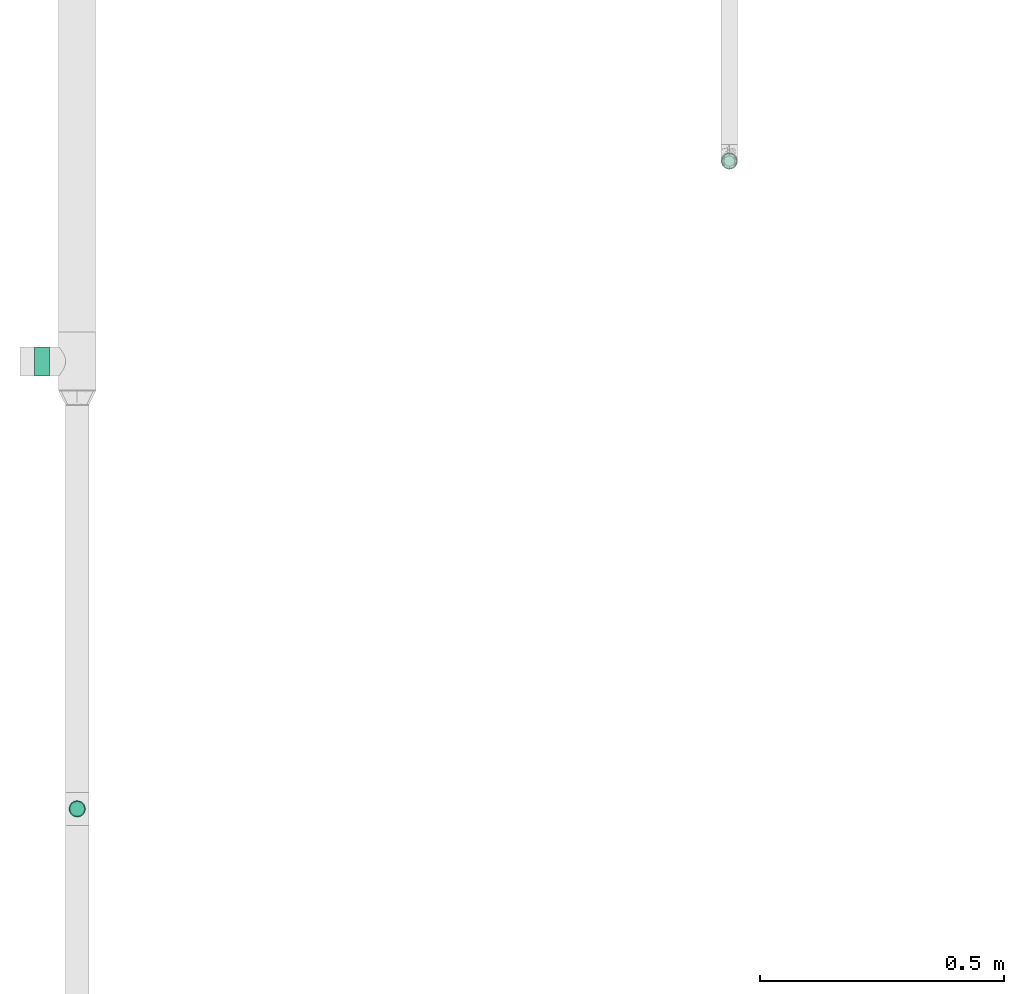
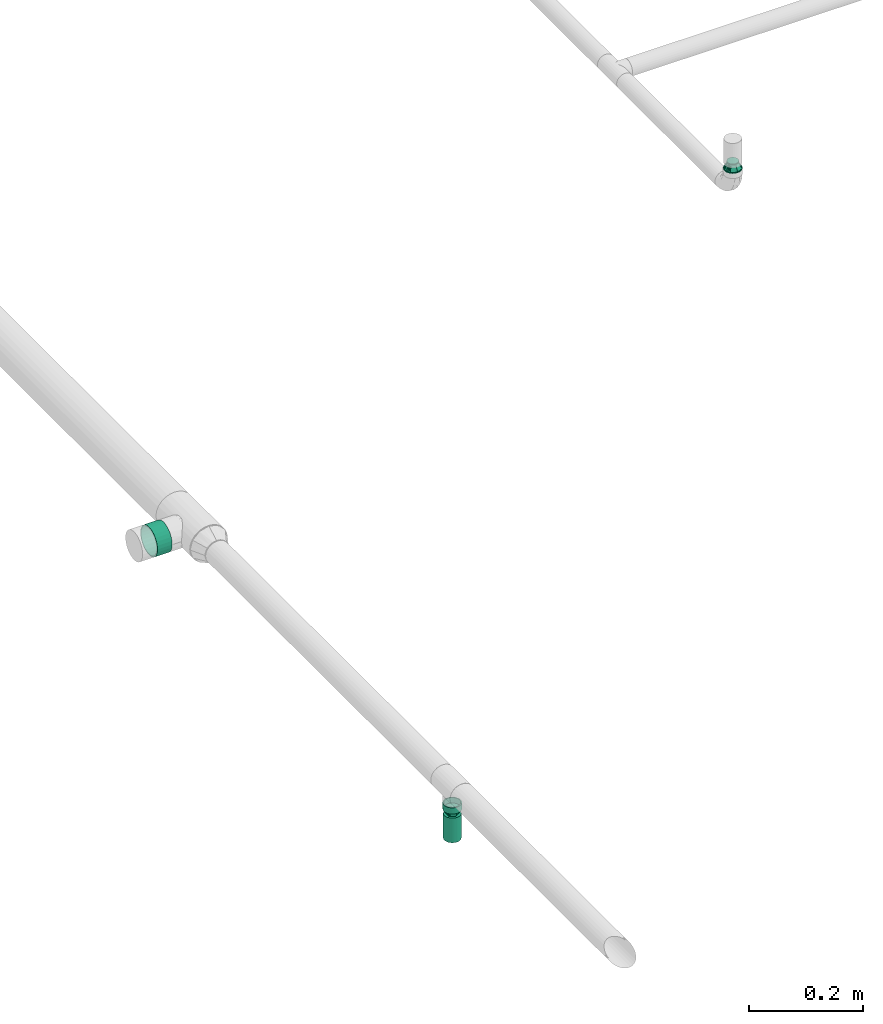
# One storey, part 5 of 32: 2 flow fittings, 2 flow segments, 1 flow terminal.
"""IFC2X3 building model written with IfcOpenShell, lengths in millimetres."""

from ifc_helpers import new_model, entity, si_unit, converted_unit, derived_unit, direction, frame, origin_with_axes, origin_2d_with_axis, place, context, subcontext, project, spatial, hollow_circle, extrude, open_shell, surface_model, source, transform, mapped, type_object, element, save


model = new_model("IFC2X3")

# Units and contexts
model_context = context("Model", 3, precision=0.01, world=frame((0.0, 4.29681676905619e-09, 0.0)), true_north=direction((4.01073788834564e-13, 1.0)))
plan_context = context("Plan", 3, precision=0.01, world=frame((0.0, 4.29681676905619e-09, 0.0)), true_north=direction((4.01073788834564e-13, 1.0)))
body_context = subcontext(model_context, "Body", "Model", "MODEL_VIEW")
ifc_project = project(units=[converted_unit("PLANEANGLEUNIT", "DEGREE", entity("IfcPositiveLengthMeasure", 0.0174532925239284), si_unit("PLANEANGLEUNIT", "RADIAN"), dimensions=[0, 0, 0, 0, 0, 0, 0]), si_unit("AREAUNIT", "SQUARE_METRE"), si_unit("LENGTHUNIT", "METRE", prefix="MILLI"), si_unit("MASSUNIT", "GRAM", prefix="KILO"), si_unit("POWERUNIT", "WATT"), si_unit("PRESSUREUNIT", "PASCAL", prefix="KILO"), si_unit("FORCEUNIT", "NEWTON", prefix="KILO"), si_unit("ELECTRICVOLTAGEUNIT", "VOLT"), si_unit("ELECTRICCURRENTUNIT", "AMPERE"), si_unit("THERMODYNAMICTEMPERATUREUNIT", "DEGREE_CELSIUS"), si_unit("TIMEUNIT", "SECOND"), si_unit("VOLUMEUNIT", "CUBIC_METRE"), derived_unit("LINEARVELOCITYUNIT", [(si_unit("LENGTHUNIT", "METRE"), 1), (si_unit("TIMEUNIT", "SECOND"), -1)]), derived_unit("VOLUMETRICFLOWRATEUNIT", [(si_unit("VOLUMEUNIT", "CUBIC_METRE"), 1), (si_unit("TIMEUNIT", "SECOND"), -1)]), derived_unit("THERMALTRANSMITTANCEUNIT", [(si_unit("POWERUNIT", "WATT"), 1), (si_unit("THERMODYNAMICTEMPERATUREUNIT", "KELVIN"), -1), (si_unit("AREAUNIT", "SQUARE_METRE"), -1)]), derived_unit("SOUNDPRESSUREUNIT", [(si_unit("PRESSUREUNIT", "PASCAL"), 1)])], contexts=[model_context, plan_context])

# Site, building, storey
site_placement = place(None, frame((0.0, -4.29681676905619e-09, 0.0), z_axis=(0.0, 0.0, 1.0), x_axis=(1.0, 0.0, 0.0)))
site = spatial("IfcSite", under=ifc_project, at=site_placement, CompositionType="ELEMENT")
building_placement = place(site_placement, frame((0.0, 4.29681676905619e-09, 0.0), z_axis=(0.0, 0.0, 1.0), x_axis=(1.0, 0.0, 0.0)))
building = spatial("IfcBuilding", under=site, at=building_placement, Name="mc-building", CompositionType="ELEMENT")
storey_placement = place(building_placement, frame((0.0, 0.0, 205200.0), z_axis=(0.0, 0.0, 1.0), x_axis=(1.0, 0.0, 0.0)))
storey = spatial("IfcBuildingStorey", under=building, at=storey_placement, Name="Nivå D + 1,2 m", CompositionType="ELEMENT", Elevation=205200.0)

# Flow fittings
pipe_fitting_type = type_object("IfcPipeFittingType", Name="magi_pipe_fe_reducer_centric_short_001", PredefinedType="TRANSITION")
shared_shape_1 = source(origin_with_axes(), body_context, "Body", "SurfaceModel", [
    surface_model("IfcShellBasedSurfaceModel", [(-2.0, 11.9501, 11.9501), (-2.0, 0.0, 16.9), (-2.0, 4.37404, 16.32415), (-2.0, 8.45, 14.63583), (-2.0, 14.63583, 8.45), (-2.0, 16.32415, 4.37404), (-2.0, -16.32415, 4.37404), (-2.0, -8.45, 14.63583), (-2.0, -14.63583, 8.45), (-2.0, -11.9501, 11.9501), (-2.0, -4.37404, 16.32415), (-2.0, -16.32415, -4.37404), (-2.0, -16.9, 0.0), (-2.0, -8.45, -14.63583), (-2.0, 16.32415, -4.37404), (-2.0, 11.9501, -11.9501), (-2.0, 14.63583, -8.45), (-2.0, 8.45, -14.63583), (-2.0, 4.37404, -16.32415), (-2.0, 0.0, -16.9), (-2.0, -11.9501, -11.9501), (-2.0, -14.63583, -8.45), (-2.0, -4.37404, -16.32415), (-2.0, 16.9, 0.0), (0.0, 4.37404, -16.32415), (0.0, 8.45, -14.63583), (0.0, 11.9501, -11.9501), (0.0, 0.0, -16.9), (0.0, 16.32415, -4.37404), (0.0, 16.32415, 4.37404), (0.0, 14.63583, -8.45), (0.0, -8.45, -14.63583), (0.0, -4.37404, -16.32415), (0.0, -11.9501, -11.9501), (0.0, -16.32415, -4.37404), (0.0, -14.63583, -8.45), (0.0, -16.32415, 4.37404), (0.0, 16.9, 0.0), (0.0, 14.63583, 8.45), (0.0, 11.9501, 11.9501), (0.0, 4.37404, 16.32415), (0.0, 8.45, 14.63583), (0.0, 0.0, 16.9), (0.0, -14.63583, 8.45), (0.0, -16.9, 0.0), (0.0, -8.45, 14.63583), (0.0, -11.9501, 11.9501), (0.0, -4.37404, 16.32415), (14.4, 5.35, -9.26647), (14.4, 0.0, -10.7), (14.4, 2.76936, -10.33541), (14.4, 10.33541, -2.76936), (14.4, 7.56604, -7.56604), (14.4, -5.35, -9.26647), (14.4, 9.26647, -5.35), (14.4, -9.26647, 5.35), (14.4, -2.76936, -10.33541), (14.4, -7.56604, -7.56604), (14.4, -10.33541, -2.76936), (14.4, -9.26647, -5.35), (14.4, 10.33541, 2.76936), (14.4, 10.7, 0.0), (14.4, 9.26647, 5.35), (14.4, 7.56604, 7.56604), (14.4, 2.76936, 10.33541), (14.4, 0.0, 10.7), (14.4, 5.35, 9.26647), (14.4, -10.33541, 2.76936), (14.4, -10.7, 0.0), (14.4, -7.56604, 7.56604), (14.4, -2.76936, 10.33541), (14.4, -5.35, 9.26647), (12.4, 0.0, 10.7), (12.4, 2.76936, 10.33541), (12.4, 5.35, 9.26647), (12.4, 7.56604, 7.56604), (12.4, 9.26647, 5.35), (12.4, 10.33541, 2.76936), (12.4, -10.33541, 2.76936), (12.4, 10.33541, -2.76936), (12.4, -2.76936, 10.33541), (12.4, -7.56604, 7.56604), (12.4, -5.35, 9.26647), (12.4, -9.26647, 5.35), (12.4, -10.33541, -2.76936), (12.4, -10.7, 0.0), (12.4, 2.76936, -10.33541), (12.4, 9.26647, -5.35), (12.4, 7.56604, -7.56604), (12.4, 5.35, -9.26647), (12.4, -7.56604, -7.56604), (12.4, -9.26647, -5.35), (12.4, -5.35, -9.26647), (12.4, 0.0, -10.7), (12.4, -2.76936, -10.33541), (12.4, 10.7, 0.0), (12.4, 9.3625, -2.31662), (0.0, 14.42505, -5.97505), (0.0, 15.66253, -2.98753), (12.4, -6.6875, -6.94985), (0.0, -13.18758, -8.96258), (0.0, 2.98753, -15.66253), (12.4, 0.0, -9.26647), (12.4, 6.6875, -6.94985), (0.0, 8.96258, -13.18758), (12.4, -9.3625, -2.31662), (0.0, -15.66253, -2.98753), (0.0, -14.42505, -5.97505), (0.0, 5.97505, -14.42505), (0.0, -2.98753, -15.66253), (0.0, -8.96258, -13.18758), (0.0, 13.18758, -8.96258), (12.4, 8.025, -4.63324), (12.4, -2.675, -9.26647), (12.4, 2.675, -9.26647), (0.0, -5.97505, -14.42505), (12.4, -8.025, -4.63324), (12.4, -9.3625, 2.31662), (0.0, -14.42505, 5.97505), (0.0, -15.66253, 2.98753), (12.4, 6.6875, 6.94985), (0.0, 13.18758, 8.96258), (0.0, -2.98753, 15.66253), (12.4, 0.0, 9.26647), (12.4, -6.6875, 6.94985), (0.0, -8.96258, 13.18758), (12.4, 9.3625, 2.31662), (0.0, 15.66253, 2.98753), (0.0, 14.42505, 5.97505), (0.0, -5.97505, 14.42505), (0.0, 2.98753, 15.66253), (0.0, 8.96258, 13.18758), (0.0, -13.18758, 8.96258), (12.4, -8.025, 4.63324), (12.4, 2.675, 9.26647), (12.4, -2.675, 9.26647), (0.0, 5.97505, 14.42505), (12.4, 8.025, 4.63324)], [open_shell([[[0, 1, 2]], [[0, 2, 3]], [[0, 4, 5]], [[0, 5, 1]], [[1, 5, 6]], [[7, 8, 9]], [[7, 10, 1]], [[8, 7, 1]], [[1, 6, 8]], [[6, 11, 12]], [[6, 5, 13]], [[5, 14, 15]], [[15, 14, 16]], [[15, 17, 18]], [[13, 5, 15]], [[19, 15, 18]], [[11, 20, 21]], [[20, 11, 13]], [[13, 19, 22]], [[11, 6, 13]], [[15, 19, 13]], [[5, 23, 14]], [[24, 25, 26]], [[27, 24, 26]], [[26, 28, 29]], [[28, 26, 30]], [[26, 29, 31]], [[27, 31, 32]], [[27, 26, 31]], [[33, 34, 35]], [[34, 33, 31]], [[31, 36, 34]], [[29, 28, 37]], [[29, 38, 39]], [[29, 39, 40]], [[40, 36, 31]], [[40, 39, 41]], [[36, 40, 42]], [[42, 43, 36]], [[44, 34, 36]], [[43, 45, 46]], [[43, 42, 45]], [[45, 42, 47]], [[31, 29, 40]], [[11, 34, 12]], [[21, 35, 11]], [[31, 20, 13]], [[21, 20, 33]], [[32, 13, 22]], [[11, 35, 34]], [[34, 44, 12]], [[32, 31, 13]], [[33, 20, 31]], [[33, 35, 21]], [[27, 32, 22]], [[22, 19, 27]], [[18, 24, 19]], [[17, 25, 18]], [[30, 15, 16]], [[17, 15, 26]], [[28, 16, 14]], [[17, 26, 25]], [[25, 24, 18]], [[37, 28, 14]], [[30, 16, 28]], [[30, 26, 15]], [[23, 37, 14]], [[19, 24, 27]], [[5, 29, 23]], [[4, 38, 5]], [[41, 0, 3]], [[4, 0, 39]], [[40, 3, 2]], [[5, 38, 29]], [[29, 37, 23]], [[40, 41, 3]], [[39, 0, 41]], [[39, 38, 4]], [[42, 40, 2]], [[2, 1, 42]], [[10, 47, 1]], [[7, 45, 10]], [[43, 9, 8]], [[7, 9, 46]], [[36, 8, 6]], [[7, 46, 45]], [[45, 47, 10]], [[44, 36, 6]], [[43, 8, 36]], [[43, 46, 9]], [[12, 44, 6]], [[1, 47, 42]], [[33, 44, 27]], [[48, 49, 50]], [[51, 48, 52]], [[53, 48, 51]], [[51, 52, 54]], [[55, 53, 51]], [[49, 53, 56]], [[49, 48, 53]], [[57, 58, 59]], [[58, 57, 53]], [[53, 55, 58]], [[60, 51, 61]], [[60, 62, 63]], [[51, 63, 55]], [[64, 65, 63]], [[64, 63, 66]], [[55, 63, 65]], [[58, 67, 68]], [[55, 67, 58]], [[69, 70, 71]], [[70, 69, 55]], [[65, 70, 55]], [[51, 60, 63]], [[72, 73, 74]], [[72, 74, 75]], [[75, 76, 77]], [[72, 75, 78]], [[79, 78, 75]], [[80, 81, 82]], [[81, 80, 78]], [[81, 78, 83]], [[80, 72, 78]], [[78, 84, 85]], [[79, 75, 77]], [[84, 78, 79]], [[86, 79, 87]], [[88, 89, 86]], [[88, 86, 87]], [[84, 79, 86]], [[84, 90, 91]], [[90, 84, 92]], [[92, 93, 94]], [[92, 84, 86]], [[86, 93, 92]], [[79, 77, 95]], [[84, 58, 85]], [[91, 59, 84]], [[53, 90, 92]], [[91, 90, 57]], [[56, 92, 94]], [[84, 59, 58]], [[58, 68, 85]], [[56, 53, 92]], [[57, 90, 53]], [[57, 59, 91]], [[49, 56, 94]], [[94, 93, 49]], [[86, 50, 93]], [[89, 48, 86]], [[54, 88, 87]], [[89, 88, 52]], [[51, 87, 79]], [[89, 52, 48]], [[48, 50, 86]], [[61, 51, 79]], [[54, 87, 51]], [[54, 52, 88]], [[95, 61, 79]], [[93, 50, 49]], [[77, 60, 95]], [[76, 62, 77]], [[66, 75, 74]], [[76, 75, 63]], [[64, 74, 73]], [[77, 62, 60]], [[60, 61, 95]], [[64, 66, 74]], [[63, 75, 66]], [[63, 62, 76]], [[65, 64, 73]], [[73, 72, 65]], [[80, 70, 72]], [[82, 71, 80]], [[55, 81, 83]], [[82, 81, 69]], [[67, 83, 78]], [[82, 69, 71]], [[71, 70, 80]], [[68, 67, 78]], [[55, 83, 67]], [[55, 69, 81]], [[85, 68, 78]], [[72, 70, 65]], [[74, 82, 95]], [[95, 82, 92]], [[92, 89, 95]], [[92, 82, 85]], [[42, 39, 44]], [[44, 46, 42]], [[39, 26, 44]], [[27, 44, 26]], [[26, 39, 37]], [[96, 97, 98]], [[33, 99, 100]], [[101, 102, 27]], [[98, 37, 95]], [[26, 103, 104]], [[104, 103, 89]], [[105, 106, 107]], [[89, 108, 104]], [[102, 109, 27]], [[110, 99, 33]], [[95, 96, 98]], [[103, 111, 112]], [[109, 102, 113]], [[85, 44, 106]], [[102, 101, 114]], [[110, 115, 92]], [[96, 112, 97]], [[107, 116, 105]], [[85, 106, 105]], [[113, 115, 109]], [[92, 115, 113]], [[116, 107, 100]], [[108, 89, 114]], [[111, 103, 26]], [[111, 97, 112]], [[99, 110, 92]], [[116, 100, 99]], [[101, 108, 114]], [[117, 118, 119]], [[39, 120, 121]], [[122, 123, 42]], [[119, 44, 85]], [[46, 124, 125]], [[125, 124, 82]], [[126, 127, 128]], [[82, 129, 125]], [[123, 130, 42]], [[131, 120, 39]], [[85, 117, 119]], [[124, 132, 133]], [[130, 123, 134]], [[95, 37, 127]], [[123, 122, 135]], [[131, 136, 74]], [[117, 133, 118]], [[128, 137, 126]], [[95, 127, 126]], [[134, 136, 130]], [[74, 136, 134]], [[137, 128, 121]], [[129, 82, 135]], [[132, 124, 46]], [[132, 118, 133]], [[120, 131, 74]], [[137, 121, 120]], [[122, 129, 135]]])]),
])
flow_fitting_1_placement = place(storey_placement, frame((323497.5, 460733.43146, 4297.78346000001), z_axis=(1.0, 0.0, 0.0), x_axis=(0.0, 0.0, -1.0)))
element("IfcFlowFitting", 1, at=flow_fitting_1_placement, inside=storey, type_object=pipe_fitting_type, Name="magi_pipe_fe_reducer_centric_short_001", context=body_context, shape_type="MappedRepresentation", body=[
    mapped(shared_shape_1, transform((0.0, 0.0, 0.0), scale=1.0)),
])
shared_shape_2 = source(origin_with_axes(), body_context, "Body", "SurfaceModel", [
    surface_model("IfcShellBasedSurfaceModel", [(0.0, 11.9501, 11.9501), (0.0, 0.0, -16.9), (0.0, -16.9, 0.0), (0.0, -11.9501, -11.9501), (14.4, 10.33541, 2.76936), (14.4, 10.33541, -2.76936), (14.4, 10.7, 0.0), (0.0, 11.9501, -11.9501), (0.0, 16.9, 0.0), (12.4, -6.6875, -6.94985), (0.0, -13.18758, -8.96258), (0.0, 15.66253, -2.98753), (12.4, 10.7, 0.0), (12.4, 6.6875, -6.94985), (0.0, 8.96258, -13.18758), (12.4, 5.35, -9.26647), (0.0, 5.97505, -14.42505), (0.0, -8.96258, -13.18758), (12.4, -10.7, 0.0), (0.0, -15.66253, -2.98753), (0.0, -5.97505, -14.42505), (12.4, -5.35, -9.26647), (12.4, 9.3625, -2.31662), (12.4, 8.025, -4.63324), (0.0, 14.42505, -5.97505), (0.0, -14.42505, -5.97505), (12.4, -8.025, -4.63324), (12.4, -9.3625, -2.31662), (12.4, -2.675, -9.26647), (0.0, -2.98753, -15.66253), (0.0, 13.18758, -8.96258), (0.0, 2.98753, -15.66253), (12.4, 2.675, -9.26647), (12.4, 6.6875, 6.94985), (0.0, 13.18758, 8.96258), (0.0, -15.66253, 2.98753), (0.0, -11.9501, 11.9501), (12.4, -6.6875, 6.94985), (0.0, -8.96258, 13.18758), (12.4, -5.35, 9.26647), (0.0, -5.97505, 14.42505), (0.0, 8.96258, 13.18758), (0.0, 15.66253, 2.98753), (0.0, 5.97505, 14.42505), (12.4, 5.35, 9.26647), (12.4, -9.3625, 2.31662), (12.4, -8.025, 4.63324), (0.0, -14.42505, 5.97505), (0.0, 14.42505, 5.97505), (12.4, 8.025, 4.63324), (12.4, 9.3625, 2.31662), (12.4, 2.675, 9.26647), (0.0, 2.98753, 15.66253), (0.0, -13.18758, 8.96258), (0.0, -2.98753, 15.66253), (12.4, -2.675, 9.26647), (-2.0, -4.37404, 16.32415), (-2.0, 0.0, 16.9), (-2.0, -11.9501, 11.9501), (-2.0, -8.45, 14.63583), (-2.0, -16.32415, 4.37404), (-2.0, -14.63583, 8.45), (-2.0, 16.32415, 4.37404), (-2.0, 11.9501, 11.9501), (-2.0, 14.63583, 8.45), (-2.0, 8.45, 14.63583), (-2.0, 4.37404, 16.32415), (-2.0, 16.9, 0.0), (-2.0, 16.32415, -4.37404), (-2.0, 8.45, -14.63583), (-2.0, -11.9501, -11.9501), (-2.0, -16.32415, -4.37404), (-2.0, -14.63583, -8.45), (-2.0, -4.37404, -16.32415), (-2.0, -8.45, -14.63583), (-2.0, 0.0, -16.9), (-2.0, 14.63583, -8.45), (-2.0, 11.9501, -11.9501), (-2.0, 4.37404, -16.32415), (-2.0, -16.9, 0.0), (0.0, -8.45, -14.63583), (0.0, -4.37404, -16.32415), (0.0, 8.45, -14.63583), (0.0, -14.63583, -8.45), (0.0, -16.32415, -4.37404), (0.0, -4.37404, 16.32415), (0.0, 4.37404, -16.32415), (0.0, 14.63583, -8.45), (0.0, 16.32415, -4.37404), (0.0, -16.32415, 4.37404), (0.0, -14.63583, 8.45), (0.0, -8.45, 14.63583), (0.0, 0.0, 16.9), (0.0, 16.32415, 4.37404), (0.0, 14.63583, 8.45), (0.0, 8.45, 14.63583), (0.0, 4.37404, 16.32415), (14.4, -2.76936, -10.33541), (14.4, 0.0, -10.7), (14.4, -5.35, -9.26647), (14.4, -7.56604, -7.56604), (14.4, -10.33541, -2.76936), (14.4, -9.26647, -5.35), (14.4, 0.0, 10.7), (14.4, 2.76936, -10.33541), (14.4, 5.35, -9.26647), (14.4, 9.26647, -5.35), (14.4, 7.56604, -7.56604), (14.4, -10.33541, 2.76936), (14.4, -10.7, 0.0), (14.4, -7.56604, 7.56604), (14.4, -9.26647, 5.35), (14.4, -2.76936, 10.33541), (14.4, -5.35, 9.26647), (14.4, 9.26647, 5.35), (14.4, 7.56604, 7.56604), (14.4, 5.35, 9.26647), (14.4, 2.76936, 10.33541), (12.4, 0.0, 10.7), (12.4, 10.33541, -2.76936), (12.4, -2.76936, 10.33541), (12.4, -10.33541, 2.76936), (12.4, -9.26647, 5.35), (12.4, -7.56604, 7.56604), (12.4, 10.33541, 2.76936), (12.4, 7.56604, 7.56604), (12.4, 2.76936, 10.33541), (12.4, 9.26647, 5.35), (12.4, -10.33541, -2.76936), (12.4, -9.26647, -5.35), (12.4, -7.56604, -7.56604), (12.4, -2.76936, -10.33541), (12.4, 7.56604, -7.56604), (12.4, 9.26647, -5.35), (12.4, 2.76936, -10.33541), (12.4, 0.0, -10.7), (12.4, 0.0, -9.26647), (12.4, 0.0, 9.26647)], [open_shell([[[0, 1, 2]], [[3, 2, 1]], [[4, 5, 6]], [[7, 0, 8]], [[3, 9, 10]], [[11, 8, 12]], [[7, 13, 14]], [[15, 16, 14]], [[17, 9, 3]], [[18, 2, 19]], [[17, 20, 21]], [[22, 23, 24]], [[25, 26, 27]], [[28, 20, 29]], [[26, 25, 10]], [[30, 13, 7]], [[30, 24, 23]], [[26, 10, 9]], [[31, 16, 32]], [[0, 33, 34]], [[35, 2, 18]], [[36, 37, 38]], [[39, 40, 38]], [[41, 33, 0]], [[12, 8, 42]], [[41, 43, 44]], [[45, 46, 47]], [[48, 49, 50]], [[51, 43, 52]], [[49, 48, 34]], [[53, 37, 36]], [[53, 47, 46]], [[49, 34, 33]], [[54, 40, 55]], [[56, 57, 58]], [[59, 56, 58]], [[60, 61, 58]], [[57, 60, 58]], [[62, 60, 57]], [[63, 64, 65]], [[57, 66, 65]], [[57, 65, 64]], [[64, 62, 57]], [[67, 68, 62]], [[69, 60, 62]], [[70, 71, 60]], [[72, 71, 70]], [[73, 74, 70]], [[70, 60, 69]], [[70, 75, 73]], [[76, 77, 68]], [[69, 68, 77]], [[78, 75, 69]], [[69, 62, 68]], [[69, 75, 70]], [[79, 60, 71]], [[3, 80, 81]], [[3, 81, 1]], [[82, 8, 3]], [[83, 3, 84]], [[3, 85, 84]], [[86, 82, 1]], [[82, 3, 1]], [[87, 88, 7]], [[82, 7, 88]], [[88, 8, 82]], [[89, 2, 84]], [[36, 90, 89]], [[85, 36, 89]], [[3, 8, 85]], [[91, 36, 85]], [[92, 85, 8]], [[93, 94, 92]], [[92, 8, 93]], [[0, 95, 94]], [[95, 92, 94]], [[96, 92, 95]], [[89, 84, 85]], [[67, 88, 68]], [[68, 87, 76]], [[69, 77, 82]], [[7, 77, 76]], [[78, 69, 86]], [[88, 87, 68]], [[67, 8, 88]], [[69, 82, 86]], [[82, 77, 7]], [[76, 87, 7]], [[78, 86, 1]], [[1, 75, 78]], [[75, 81, 73]], [[73, 80, 74]], [[72, 70, 83]], [[3, 70, 74]], [[71, 72, 84]], [[80, 3, 74]], [[73, 81, 80]], [[71, 84, 2]], [[84, 72, 83]], [[70, 3, 83]], [[71, 2, 79]], [[1, 81, 75]], [[79, 89, 60]], [[60, 90, 61]], [[59, 58, 91]], [[36, 58, 61]], [[56, 59, 85]], [[89, 90, 60]], [[79, 2, 89]], [[59, 91, 85]], [[91, 58, 36]], [[61, 90, 36]], [[56, 85, 92]], [[92, 57, 56]], [[57, 96, 66]], [[66, 95, 65]], [[64, 63, 94]], [[0, 63, 65]], [[62, 64, 93]], [[95, 0, 65]], [[66, 96, 95]], [[62, 93, 8]], [[93, 64, 94]], [[63, 0, 94]], [[62, 8, 67]], [[92, 96, 57]], [[0, 2, 36]], [[36, 92, 0]], [[97, 98, 99]], [[100, 99, 101]], [[101, 99, 5]], [[102, 100, 101]], [[101, 5, 103]], [[104, 105, 98]], [[105, 99, 98]], [[106, 5, 107]], [[105, 107, 5]], [[105, 5, 99]], [[108, 109, 101]], [[110, 111, 108]], [[112, 110, 108]], [[112, 101, 103]], [[113, 110, 112]], [[5, 4, 103]], [[114, 115, 4]], [[116, 117, 115]], [[4, 115, 117]], [[4, 117, 103]], [[101, 112, 108]], [[118, 119, 120]], [[120, 119, 39]], [[121, 122, 123]], [[39, 119, 123]], [[119, 118, 124]], [[44, 125, 126]], [[124, 126, 125]], [[127, 124, 125]], [[124, 118, 126]], [[12, 119, 124]], [[123, 128, 121]], [[128, 123, 119]], [[129, 128, 21]], [[21, 128, 119]], [[130, 129, 21]], [[131, 21, 119]], [[132, 15, 133]], [[119, 133, 15]], [[134, 135, 15]], [[131, 119, 15]], [[15, 135, 131]], [[18, 121, 128]], [[12, 5, 119]], [[119, 106, 133]], [[15, 132, 105]], [[107, 132, 133]], [[134, 15, 104]], [[5, 106, 119]], [[12, 6, 5]], [[15, 105, 104]], [[105, 132, 107]], [[133, 106, 107]], [[134, 104, 98]], [[98, 135, 134]], [[135, 97, 131]], [[131, 99, 21]], [[129, 130, 102]], [[100, 130, 21]], [[128, 129, 101]], [[99, 100, 21]], [[131, 97, 99]], [[128, 101, 109]], [[101, 129, 102]], [[130, 100, 102]], [[128, 109, 18]], [[98, 97, 135]], [[18, 108, 121]], [[121, 111, 122]], [[39, 123, 113]], [[110, 123, 122]], [[120, 39, 112]], [[108, 111, 121]], [[18, 109, 108]], [[39, 113, 112]], [[113, 123, 110]], [[122, 111, 110]], [[120, 112, 103]], [[103, 118, 120]], [[118, 117, 126]], [[126, 116, 44]], [[127, 125, 114]], [[115, 125, 44]], [[124, 127, 4]], [[116, 115, 44]], [[126, 117, 116]], [[124, 4, 6]], [[4, 127, 114]], [[125, 115, 114]], [[124, 6, 12]], [[103, 117, 118]], [[12, 44, 39]], [[21, 12, 39]], [[18, 21, 39]], [[15, 12, 21]], [[1, 0, 7]], [[19, 25, 27]], [[19, 27, 18]], [[28, 21, 20]], [[21, 9, 17]], [[24, 11, 22]], [[1, 31, 136]], [[15, 14, 13]], [[32, 136, 31]], [[29, 1, 136]], [[23, 13, 30]], [[22, 11, 12]], [[32, 16, 15]], [[28, 29, 136]], [[42, 48, 50]], [[42, 50, 12]], [[51, 44, 43]], [[44, 33, 41]], [[47, 35, 45]], [[92, 54, 137]], [[39, 38, 37]], [[55, 137, 54]], [[52, 92, 137]], [[46, 37, 53]], [[45, 35, 18]], [[55, 40, 39]], [[51, 52, 137]]])]),
])
flow_fitting_2_placement = place(storey_placement, frame((324834.97595, 462061.9875, 4402.73146000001), z_axis=(-1.0, 0.0, 0.0), x_axis=(0.0, 0.0, 1.0)))
element("IfcFlowFitting", 2, at=flow_fitting_2_placement, inside=storey, type_object=pipe_fitting_type, Name="magi_pipe_fe_reducer_centric_short_001", context=body_context, shape_type="MappedRepresentation", body=[
    mapped(shared_shape_2, transform((0.0, 0.0, 0.0), scale=1.0)),
])

# Flow segments
pipe_segment_type = type_object("IfcPipeSegmentType", Name="Stålrør normaltykke", PredefinedType="RIGIDSEGMENT")
shared_shape_3 = source(origin_with_axes(), body_context, "Body", "SweptSolid", [
    extrude(hollow_circle(Radius=16.9, WallThickness=2.0, at=origin_2d_with_axis()), frame((0.0, 0.0, 0.0), z_axis=(1.0, 0.0, 0.0), x_axis=(0.0, 1.0, 0.0)), (0.0, 0.0, 1.0), 13.3),
])
flow_segment_1_placement = place(storey_placement, frame((323497.5, 460733.43146, 4311.13146), z_axis=(-1.0, 0.0, 0.0), x_axis=(0.0, 0.0, -1.0)))
element("IfcFlowSegment", 3, at=flow_segment_1_placement, inside=storey, type_object=pipe_segment_type, Name="Stålrør normaltykke", context=body_context, shape_type="MappedRepresentation", body=[
    mapped(shared_shape_3, transform((0.0, 0.0, 0.0), scale=1.0, scale2=1.0, scale3=1.0, uniform=False)),
])
shared_shape_4 = source(origin_with_axes(), body_context, "Body", "SweptSolid", [
    extrude(hollow_circle(Radius=30.1, WallThickness=2.0, at=origin_2d_with_axis()), frame((0.0, 0.0, 0.0), z_axis=(1.0, 0.0, 0.0), x_axis=(0.0, 1.0, 0.0)), (0.0, 0.0, 1.0), 30.0),
])
flow_segment_2_placement = place(storey_placement, frame((323440.35, 461650.99192, 4347.43145999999), z_axis=(0.0, 0.0, 1.0), x_axis=(-1.0, 0.0, 0.0)))
element("IfcFlowSegment", 4, at=flow_segment_2_placement, inside=storey, type_object=pipe_segment_type, Name="Stålrør normaltykke", context=body_context, shape_type="MappedRepresentation", body=[
    mapped(shared_shape_4, transform((0.0, 0.0, 0.0), scale=1.0)),
])

# Flow terminal
fire_suppression_terminal_type = type_object("IfcFireSuppressionTerminalType", Name="SP-15-K80-68DGR-STD-NEDOVER", PredefinedType="NOTDEFINED")
shared_shape_5 = source(origin_with_axes(), body_context, "Body", "SurfaceModel", [
    surface_model("IfcShellBasedSurfaceModel", [(4.1411, -15.45481, 53.0), (8.0, -13.85641, 53.0), (11.31371, -11.31371, 53.0), (-8.0, -13.85641, 53.0), (15.45481, -4.1411, 53.0), (16.0, 0.0, 53.0), (13.85641, -8.0, 53.0), (0.0, -16.0, 53.0), (-4.1411, -15.45481, 53.0), (-13.85641, -8.0, 53.0), (-11.31371, -11.31371, 53.0), (-15.45481, -4.1411, 53.0), (15.45481, 4.1411, 53.0), (13.85641, 8.0, 53.0), (11.31371, 11.31371, 53.0), (-4.1411, 15.45481, 53.0), (8.0, 13.85641, 53.0), (4.1411, 15.45481, 53.0), (0.0, 16.0, 53.0), (-13.85641, 8.0, 53.0), (-15.45481, 4.1411, 53.0), (-16.0, 0.0, 53.0), (-11.31371, 11.31371, 53.0), (-8.0, 13.85641, 53.0), (0.0, 16.0, 0.0), (4.1411, 15.45481, 0.0), (8.0, 13.85641, 0.0), (-4.1411, 15.45481, 0.0), (11.31371, 11.31371, 0.0), (13.85641, 8.0, 0.0), (15.45481, 4.1411, 0.0), (-15.45481, -4.1411, 0.0), (-11.31371, 11.31371, 0.0), (-8.0, 13.85641, 0.0), (-13.85641, 8.0, 0.0), (-15.45481, 4.1411, 0.0), (-16.0, 0.0, 0.0), (4.1411, -15.45481, 0.0), (16.0, 0.0, 0.0), (15.45481, -4.1411, 0.0), (13.85641, -8.0, 0.0), (11.31371, -11.31371, 0.0), (8.0, -13.85641, 0.0), (-8.0, -13.85641, 0.0), (-13.85641, -8.0, 0.0), (-11.31371, -11.31371, 0.0), (0.0, -16.0, 0.0), (-4.1411, -15.45481, 0.0)], [open_shell([[[0, 1, 2]], [[3, 0, 2]], [[4, 5, 2]], [[4, 2, 6]], [[3, 2, 5]], [[7, 3, 8]], [[7, 0, 3]], [[3, 9, 10]], [[9, 3, 11]], [[5, 11, 3]], [[5, 12, 11]], [[12, 13, 14]], [[15, 12, 14]], [[16, 17, 18]], [[14, 16, 15]], [[18, 15, 16]], [[11, 19, 20]], [[21, 11, 20]], [[22, 15, 23]], [[15, 22, 19]], [[19, 11, 15]], [[11, 12, 15]], [[24, 25, 26]], [[27, 24, 26]], [[28, 29, 30]], [[27, 26, 28]], [[27, 28, 31]], [[27, 32, 33]], [[32, 27, 34]], [[34, 31, 35]], [[31, 34, 27]], [[35, 31, 36]], [[28, 30, 31]], [[37, 38, 39]], [[37, 39, 40]], [[41, 42, 37]], [[41, 37, 40]], [[38, 37, 43]], [[44, 43, 45]], [[43, 44, 31]], [[43, 46, 47]], [[43, 31, 38]], [[37, 46, 43]], [[38, 31, 30]], [[11, 31, 44]], [[45, 9, 44]], [[3, 43, 47]], [[45, 43, 10]], [[8, 47, 46]], [[31, 21, 36]], [[31, 11, 21]], [[44, 9, 11]], [[45, 10, 9]], [[3, 10, 43]], [[47, 8, 3]], [[46, 7, 8]], [[0, 37, 42]], [[41, 1, 42]], [[6, 40, 39]], [[41, 40, 2]], [[4, 39, 38]], [[37, 0, 7]], [[42, 1, 0]], [[41, 2, 1]], [[40, 6, 2]], [[4, 6, 39]], [[38, 5, 4]], [[37, 7, 46]], [[12, 38, 30]], [[13, 30, 29]], [[16, 26, 25]], [[17, 25, 24]], [[30, 13, 12]], [[12, 5, 38]], [[28, 14, 13]], [[28, 26, 14]], [[14, 26, 16]], [[25, 17, 16]], [[28, 13, 29]], [[24, 18, 17]], [[15, 27, 33]], [[32, 23, 33]], [[19, 34, 35]], [[32, 34, 22]], [[20, 35, 36]], [[27, 15, 18]], [[33, 23, 15]], [[32, 22, 23]], [[34, 19, 22]], [[20, 19, 35]], [[36, 21, 20]], [[27, 18, 24]]])]),
])
flow_terminal_placement = place(storey_placement, frame((323497.5, 460733.43146, 4288.43145999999), z_axis=(0.0, 0.0, -1.0), x_axis=(1.0, 0.0, 0.0)))
element("IfcFlowTerminal", 5, at=flow_terminal_placement, inside=storey, type_object=fire_suppression_terminal_type, Name="SP-15-K80-68DGR-STD-NEDOVER", context=body_context, shape_type="MappedRepresentation", body=[
    mapped(shared_shape_5, transform((0.0, 0.0, 0.0), scale=1.0)),
])

save(model, "model.ifc")
